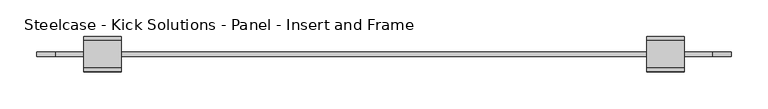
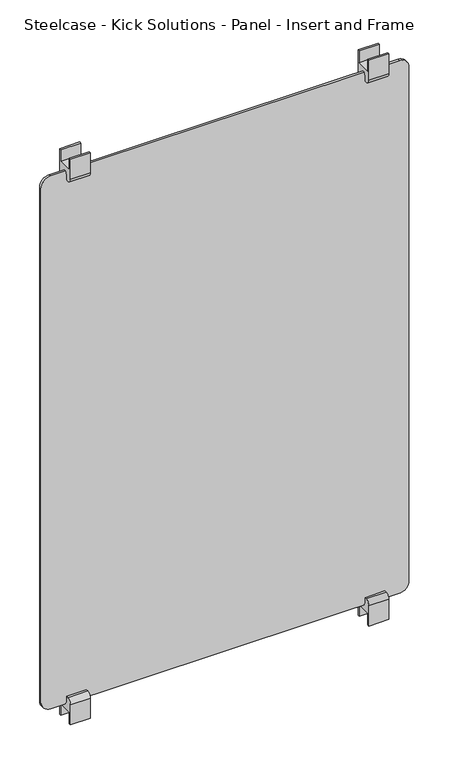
"""IFC4 building model written with IfcOpenShell, lengths in millimetres: furniture geometry, Steelcase - Kick Solutions - Panel - Insert and Frame : Laminate - 66H x 42W."""

from ifc_helpers import new_model, si_unit, point, frame, frame_2d, origin, place, context, project, spatial, polyline, circle_curve, trimmed, segment, composite_curve, outline, extrude, source, transform, mapped, element, save


def steelcase_kick_solutions_panel_insert_and_frame_3670d5bc(model_context):
    return source(origin(), model_context, "Body", "SweptSolid", [
        extrude(outline(composite_curve([segment(polyline([(5.3821989, 1651.0), (10.144699, 1651.0), (10.144699, 1596.313221)]), True, "CONTINUOUS"), segment(trimmed(circle_curve(frame_2d((-1.6831687, 1596.313221)), 11.8278677), [point((10.144699, 1596.313221))], [point((-1.6831687, 1584.4853533))], False, "CARTESIAN"), True, "CONTINUOUS"), segment(polyline([(-1.6831687, 1584.4853533), (-7.3178012, 1584.4853533), (-7.3178012, 1599.8857521)]), True, "CONTINUOUS"), segment(trimmed(circle_curve(frame_2d((-13.667801, 1599.8857521)), 6.3499998), [point((-7.3178012, 1599.8857521))], [point((-20.0178007, 1599.8857521))], True, "CARTESIAN"), True, "CONTINUOUS"), segment(polyline([(-20.0178007, 1599.8857521), (-20.0178007, 1584.4853527), (-25.2074988, 1584.4853527)]), True, "CONTINUOUS"), segment(trimmed(circle_curve(frame_2d((-25.2074988, 1596.7581549)), 12.2728022), [point((-25.2074988, 1584.4853527))], [point((-37.480301, 1596.7581549))], False, "CARTESIAN"), True, "CONTINUOUS"), segment(polyline([(-37.480301, 1596.7581549), (-37.480301, 1651.0), (-32.7177988, 1651.0), (-32.7177988, 1619.2499758), (5.3821989, 1619.2499758), (5.3821989, 1651.0)]), True, "CONTINUOUS")], self_intersect=False)), frame((889.9148583, 0.0, 0.0), z_axis=(1.0, 0.0, 0.0), x_axis=(0.0, 1.0, 0.0)), (0.0, 0.0, 1.0), 50.8),
        extrude(outline(composite_curve([segment(polyline([(5.3821989, 120.6499576), (5.3821989, 152.3999815), (-32.7177988, 152.3999815), (-32.7177988, 120.6499576), (-37.480301, 120.6499576), (-37.480301, 174.8918024)]), True, "CONTINUOUS"), segment(trimmed(circle_curve(frame_2d((-25.2074988, 174.8918024)), 12.2728022), [point((-37.480301, 174.8918024))], [point((-25.2074988, 187.1646046))], False, "CARTESIAN"), True, "CONTINUOUS"), segment(polyline([(-25.2074988, 187.1646046), (-20.0178007, 187.1646046), (-20.0178007, 171.7642058)]), True, "CONTINUOUS"), segment(trimmed(circle_curve(frame_2d((-13.667801, 171.7642058)), 6.3499998), [point((-20.0178007, 171.7642058))], [point((-7.3178012, 171.7642058))], True, "CARTESIAN"), True, "CONTINUOUS"), segment(polyline([(-7.3178012, 171.7642058), (-7.3178012, 187.1646046), (-1.6831687, 187.1646046)]), True, "CONTINUOUS"), segment(trimmed(circle_curve(frame_2d((-1.6831687, 175.3367369)), 11.8278677), [point((-1.6831687, 187.1646046))], [point((10.144699, 175.3367369))], False, "CARTESIAN"), True, "CONTINUOUS"), segment(polyline([(10.144699, 175.3367369), (10.144699, 120.6499576), (5.3821989, 120.6499576)]), True, "CONTINUOUS")], self_intersect=False)), frame((889.9148583, 0.0, 0.0), z_axis=(1.0, 0.0, 0.0), x_axis=(0.0, 1.0, 0.0)), (0.0, 0.0, 1.0), 50.8),
        extrude(outline(composite_curve([segment(polyline([(5.3821989, 1651.0), (10.144699, 1651.0), (10.144699, 1596.3132204)]), True, "CONTINUOUS"), segment(trimmed(circle_curve(frame_2d((-1.6831684, 1596.3132204)), 11.8278674), [point((10.144699, 1596.3132204))], [point((-1.6831684, 1584.485353))], False, "CARTESIAN"), True, "CONTINUOUS"), segment(polyline([(-1.6831684, 1584.485353), (-7.3178009, 1584.485353), (-7.3178009, 1599.8857521)]), True, "CONTINUOUS"), segment(trimmed(circle_curve(frame_2d((-13.667801, 1599.8857521)), 6.3500001), [point((-7.3178009, 1599.8857521))], [point((-20.017801, 1599.8857521))], True, "CARTESIAN"), True, "CONTINUOUS"), segment(polyline([(-20.017801, 1599.8857521), (-20.017801, 1584.485353), (-25.2074991, 1584.485353)]), True, "CONTINUOUS"), segment(trimmed(circle_curve(frame_2d((-25.2074991, 1596.7581549)), 12.2728019), [point((-25.2074991, 1584.485353))], [point((-37.480301, 1596.7581549))], False, "CARTESIAN"), True, "CONTINUOUS"), segment(polyline([(-37.480301, 1596.7581549), (-37.480301, 1651.0), (-32.7177988, 1651.0), (-32.7177988, 1619.2499758), (5.3821989, 1619.2499758), (5.3821989, 1651.0)]), True, "CONTINUOUS")], self_intersect=False)), frame((126.0851417, 0.0, 0.0), z_axis=(1.0, 0.0, 0.0), x_axis=(0.0, 1.0, 0.0)), (0.0, 0.0, 1.0), 50.8),
        extrude(outline(composite_curve([segment(polyline([(5.3821989, 120.6499576), (5.3821989, 152.3999818), (-32.7177988, 152.3999818), (-32.7177988, 120.6499576), (-37.480301, 120.6499576), (-37.480301, 174.8918027)]), True, "CONTINUOUS"), segment(trimmed(circle_curve(frame_2d((-25.2074991, 174.8918027)), 12.2728019), [point((-37.480301, 174.8918027))], [point((-25.2074991, 187.1646046))], False, "CARTESIAN"), True, "CONTINUOUS"), segment(polyline([(-25.2074991, 187.1646046), (-20.017801, 187.1646046), (-20.017801, 171.7642055)]), True, "CONTINUOUS"), segment(trimmed(circle_curve(frame_2d((-13.667801, 171.7642055)), 6.3500001), [point((-20.017801, 171.7642055))], [point((-7.3178009, 171.7642055))], True, "CARTESIAN"), True, "CONTINUOUS"), segment(polyline([(-7.3178009, 171.7642055), (-7.3178009, 187.1646041), (-1.6831684, 187.1646041)]), True, "CONTINUOUS"), segment(trimmed(circle_curve(frame_2d((-1.6831684, 175.3367366)), 11.8278674), [point((-1.6831684, 187.1646041))], [point((10.144699, 175.3367366))], False, "CARTESIAN"), True, "CONTINUOUS"), segment(polyline([(10.144699, 175.3367366), (10.144699, 120.6499576), (5.3821989, 120.6499576)]), True, "CONTINUOUS")], self_intersect=False)), frame((126.0851417, 0.0, 0.0), z_axis=(1.0, 0.0, 0.0), x_axis=(0.0, 1.0, 0.0)), (0.0, 0.0, 1.0), 50.8),
        extrude(outline(composite_curve([segment(polyline([(1606.5499516, 978.8148583), (1606.5499516, 87.9851417)]), True, "CONTINUOUS"), segment(trimmed(circle_curve(frame_2d((1581.1499516, 87.9851417)), 25.4), [point((1606.5499516, 87.9851417))], [point((1581.1499516, 62.5851417))], False, "CARTESIAN"), True, "CONTINUOUS"), segment(polyline([(1581.1499516, 62.5851417), (190.5000061, 62.5851417)]), True, "CONTINUOUS"), segment(trimmed(circle_curve(frame_2d((190.5000061, 87.9851417)), 25.4), [point((190.5000061, 62.5851417))], [point((165.1000061, 87.9851417))], False, "CARTESIAN"), True, "CONTINUOUS"), segment(polyline([(165.1000061, 87.9851417), (165.1000061, 978.8148583)]), True, "CONTINUOUS"), segment(trimmed(circle_curve(frame_2d((190.5000061, 978.8148583)), 25.4), [point((165.1000061, 978.8148583))], [point((190.5000061, 1004.2148583))], False, "CARTESIAN"), True, "CONTINUOUS"), segment(polyline([(190.5000061, 1004.2148583), (1581.1499516, 1004.2148583)]), True, "CONTINUOUS"), segment(trimmed(circle_curve(frame_2d((1581.1499516, 978.8148583)), 25.4), [point((1581.1499516, 1004.2148583))], [point((1606.5499516, 978.8148583))], False, "CARTESIAN"), True, "CONTINUOUS")], self_intersect=False)), frame((0.0, -16.8428004, 0.0), z_axis=(0.0, 1.0, 0.0), x_axis=(0.0, 0.0, 1.0)), (0.0, 0.0, 1.0), 6.3499985),
    ])


if __name__ == "__main__":
    model = new_model("IFC4")
    model_context = context("Model", 3, world=origin())
    ifc_project = project(units=[si_unit("LENGTHUNIT", "METRE", prefix="MILLI")], contexts=[model_context])
    site = spatial("IfcSite", under=ifc_project)
    building = spatial("IfcBuilding", under=site)
    placement = place(None, origin())
    steelcase_kick_solutions_panel_insert_and_frame_shape = steelcase_kick_solutions_panel_insert_and_frame_3670d5bc(model_context)
    element("IfcFurniture", 1, ObjectType="Steelcase - Kick Solutions - Panel - Insert and Frame : Laminate - 66H x 42W", at=placement, inside=building, context=model_context, shape_type="MappedRepresentation", body=[
        mapped(steelcase_kick_solutions_panel_insert_and_frame_shape, transform((0.0, 0.0, 0.0), x_axis=(1.0, 0.0, 0.0), y_axis=(0.0, 1.0, 0.0), z_axis=(0.0, 0.0, 1.0))),
    ])
    save(model, "model.ifc")
